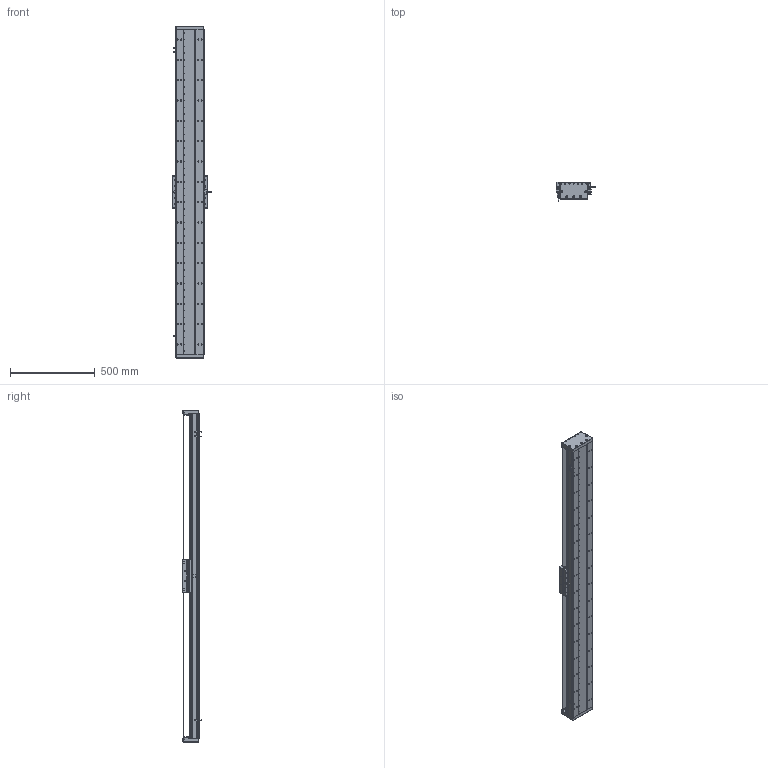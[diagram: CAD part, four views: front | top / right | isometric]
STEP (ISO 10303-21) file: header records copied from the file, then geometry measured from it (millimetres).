
FILE_DESCRIPTION (( 'STEP AP203' ), '1' );
FILE_NAME ('DA-C165-C2-T1680-C010-0.2 直线电机.STEP', '2023-05-11T07:41:45', ( '微软用户' ), ( '微软中国' ), 'SwSTEP 2.0', 'SolidWorks 2019', '' );
FILE_SCHEMA (( 'CONFIG_CONTROL_DESIGN' ));
Length unit declared in the file: millimetre
Products named in the file (18): 珨极趙賑雄怢啣wf-C2; 复件 DA95-HXJ-00 缓冲橡胶^DA-C165-C2-T-C010-0.2-N 直线电机; IU-CU165-L 菁釱絳寢; 葩璃 CKM01-W075-TRL^DA-C165-C2-T-C010-0.2-N 眻盄萇儂; 葩璃 DA95-GT-T-00^IU-CU165-L 菁釱絳寢_T; IU-CU165-L-00 菁釱_L1920; 复件 DA165-GYP-00 光电感应片^DA-C165-C2-T-C010-0.2-N 直线电机; 复件 六角薄螺母 M3^DA-C165-C2-T-C010-0.2-N 直线电机_GB_FASTENER_NUT_STNAB M3-C; 复件 DA165-GDYK-00 钢带压块^复件 CU165钢带组件_DA-C165-C2-T-C010-0.2-N 直线电机; 复件 DA165-GDLK-00 钢带拉块^复件 CU165钢带组件_DA-C165-C2-T-C010-0.2-N 直线电机; 复件 CU165钢带组件^DA-C165-C2-T-C010-0.2-N 直线电机; 复件 CKM02-W075-C1C2-TP-3.0 一体电机-C2^DA-C165-C2-T-C010-0.2-N 直线电机; 复件 DA165-GD-DG-H-00 端盖^复件 CU165钢带组件_DA-C165-C2-T-C010-0.2-N 直线电机; DA-C165-C2-T1680-C010-0.2 眻盄萇儂; 复件 DA165-GD-1860-002-00 钢带盖板^复件 CU165钢带组件_DA-C165-C2-T-C010-0.2-N 直线电机; 复件 DMA-010-0.2 读数头^DA-C165-C2-T-C010-0.2-N 直线电机; 葩璃 PM-T45^DA-C165-C2-T-C010-0.2-N 眻盄萇儂; 复件 XD-U-02L 磁栅尺^DA-C165-C2-T-C010-0.2-N 直线电机_T
Assembly tree (33 placements, depth 3):
  DA-C165-C2-T1680-C010-0.2 眻盄萇儂
    IU-CU165-L 菁釱絳寢
      IU-CU165-L-00 菁釱_L1920
      葩璃 DA95-GT-T-00^IU-CU165-L 菁釱絳寢_T  x4
    复件 XD-U-02L 磁栅尺^DA-C165-C2-T-C010-0.2-N 直线电机_T
    葩璃 PM-T45^DA-C165-C2-T-C010-0.2-N 眻盄萇儂  x3
    葩璃 CKM01-W075-TRL^DA-C165-C2-T-C010-0.2-N 眻盄萇儂
    复件 CU165钢带组件^DA-C165-C2-T-C010-0.2-N 直线电机
      复件 DA165-GD-DG-H-00 端盖^复件 CU165钢带组件_DA-C165-C2-T-C010-0.2-N 直线电机  x2
      复件 DA165-GDYK-00 钢带压块^复件 CU165钢带组件_DA-C165-C2-T-C010-0.2-N 直线电机  x2
      复件 DA165-GD-1860-002-00 钢带盖板^复件 CU165钢带组件_DA-C165-C2-T-C010-0.2-N 直线电机
      复件 DA165-GDLK-00 钢带拉块^复件 CU165钢带组件_DA-C165-C2-T-C010-0.2-N 直线电机  x2
    复件 DA95-HXJ-00 缓冲橡胶^DA-C165-C2-T-C010-0.2-N 直线电机  x4
    复件 DA165-GYP-00 光电感应片^DA-C165-C2-T-C010-0.2-N 直线电机
    复件 DMA-010-0.2 读数头^DA-C165-C2-T-C010-0.2-N 直线电机
    复件 CKM02-W075-C1C2-TP-3.0 一体电机-C2^DA-C165-C2-T-C010-0.2-N 直线电机
    复件 六角薄螺母 M3^DA-C165-C2-T-C010-0.2-N 直线电机_GB_FASTENER_NUT_STNAB M3-C  x6
    珨极趙賑雄怢啣wf-C2
Bounding box: 233 x 111.45 x 1960 mm (x, y, z)
Volume: 11431278.7 mm3; surface area: 3373212.7 mm2
Topology: 70 solids, 70 shells, 3547 faces, 10133 edges, 6431 vertices
Faces by surface type: cylinder 1989, plane 1078, cone 430, torus 46, sphere 4
Entity records: 114053 total; most frequent: CARTESIAN_POINT 29315, ORIENTED_EDGE 17438, DIRECTION 17167, EDGE_CURVE 8719, AXIS2_PLACEMENT_3D 6529, VERTEX_POINT 5667, VECTOR 4109, LINE 4109
